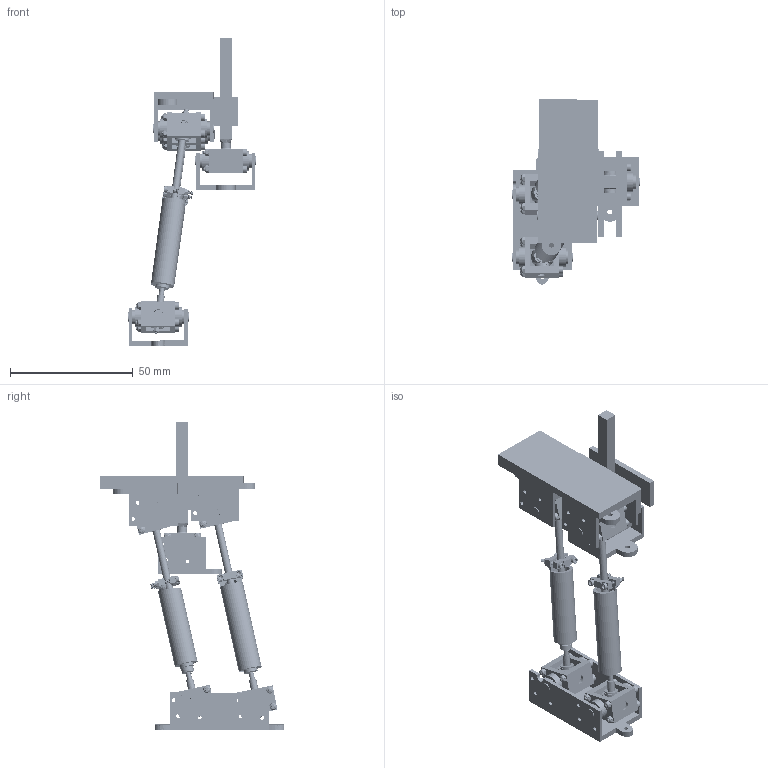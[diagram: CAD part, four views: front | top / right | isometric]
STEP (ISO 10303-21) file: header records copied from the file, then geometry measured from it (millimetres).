
FILE_DESCRIPTION(/* description */ (''),/* implementation_level */ '2;1');
FILE_NAME(/* name */ 'Neutral Position from 06 project 95 from 05 Project Four Fingers etc.step',/* time_stamp */ '2026-07-05T19:12:24-04:00',/* author */ (''),/* organization */ (''),/* preprocessor_version */ 'ST-DEVELOPER v20.1',/* originating_system */ 'Autodesk Translation Framework v15.8.0.0',/* authorisation */ '');
FILE_SCHEMA (('AUTOMOTIVE_DESIGN { 1 0 10303 214 3 1 1 }'));
Products named in the file (153): 2026-07-05-19-12-20-124; 2026-07-05-19-12-20-125; #321817; #321818; 2026-07-05-19-12-20-125_3; 2026-07-05-19-12-20-191; #321821; #321822; #321823; #321824; 2026-07-05-19-12-20-176; 2026-07-05-19-12-20-177; 2026-07-05-19-12-20-178_2; 2026-07-05-19-12-20-178_3; #321829; #321830; #321831; #321832; 2026-07-05-19-12-20-177_5; 2026-07-05-19-12-20-178_4; #321835; 2026-07-05-19-12-20-177_7; 2026-07-05-19-12-20-176_1; 2026-07-05-19-12-20-176_2; 2026-07-05-19-12-20-178_5; #321840; #321841; #321842; #321843; #321844; #321845; #321846; #321847; 2026-07-05-19-12-20-186; 2026-07-05-19-12-20-188; 2026-07-05-19-12-20-189; 2026-07-05-19-12-20-189_1; #321852; #321853; #321854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
Assembly tree (162 placements, depth 7):
  2026-07-05-19-12-20-124
    2026-07-05-19-12-20-125
      #321817
      #321818
      2026-07-05-19-12-20-125_3
        2026-07-05-19-12-20-191
        #321821
          #321822
            #321823
            #321824
              2026-07-05-19-12-20-176
              2026-07-05-19-12-20-177
              2026-07-05-19-12-20-178_2
              2026-07-05-19-12-20-178_3
              #321829
              #321830
              #321831
              #321832
              2026-07-05-19-12-20-177_5
              2026-07-05-19-12-20-178_4
              #321835
              2026-07-05-19-12-20-177_7
              2026-07-05-19-12-20-176_1
              2026-07-05-19-12-20-176_2
              2026-07-05-19-12-20-178_5
              #321840
            #321841
              #321842
              #321843
              #321844
        #321845
          #321846
          #321847
            2026-07-05-19-12-20-186
            2026-07-05-19-12-20-188
            2026-07-05-19-12-20-189
            2026-07-05-19-12-20-189_1
            #321852
            #321853
            #321854
            #321855
            2026-07-05-19-12-20-187_3
            2026-07-05-19-12-20-188_1
            #321858
            2026-07-05-19-12-20-189_3
            2026-07-05-19-12-20-189_4
            2026-07-05-19-12-20-189_5
            2026-07-05-19-12-20-189_6
            #321863
          #321864
            #321865
            #321866
            #321867
      2026-07-05-19-12-20-125_5
    #321869
      2026-07-05-19-12-20-133_1
        #321871
      2026-07-05-19-12-20-133_2
      2026-07-05-19-12-20-133_3
        2026-07-05-19-12-20-132
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Bounding box: 52.29 x 75.29 x 125.58 mm (x, y, z)
Volume: 33066 mm3; surface area: 42919.2 mm2
Topology: 136 solids, 140 shells, 5206 faces, 13313 edges, 8568 vertices
Faces by surface type: cylinder 2814, plane 1050, cone 651, bspline 535, torus 156
Full cylindrical faces by diameter (mm): 0.971 x12, 1.002 x132, 1.021 x20, 1.145 x894, 1.2 x2, 1.257 x20, 1.333 x2, 1.379 x40, 1.4 x132, 1.541 x18, 1.545 x20, 1.586 x4, 1.6 x932, 1.72 x2, 1.907 x20, 1.926 x36, 1.97 x2, 2 x13, 2.1 x4, 2.2 x4, 2.625 x4, 2.722 x2, 3 x76, 3.6 x52, 4 x1, 4.979 x2, 5 x2, 5.5 x4, 5.6 x2, 5.8 x30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
Entity records: 319277 total; most frequent: CARTESIAN_POINT 217718, ORIENTED_EDGE 23274, DIRECTION 16875, EDGE_CURVE 11649, VERTEX_POINT 7484, AXIS2_PLACEMENT_3D 6629, EDGE_LOOP 5033, FACE_OUTER_BOUND 4590
